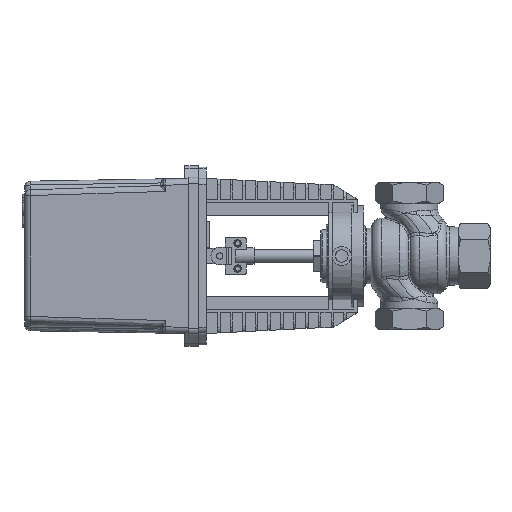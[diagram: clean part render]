
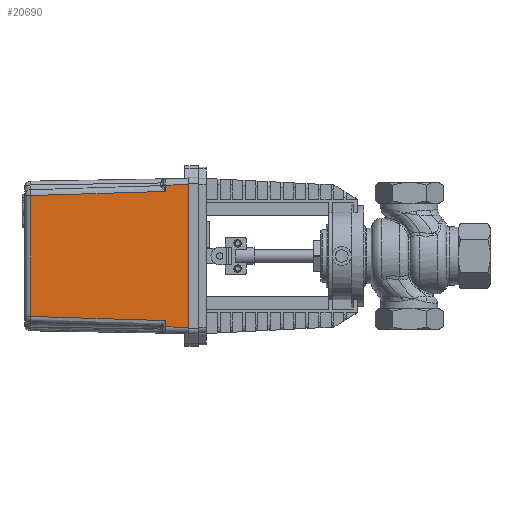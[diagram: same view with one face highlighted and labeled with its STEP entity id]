
A CAD part, left-side view. The second image highlights one B-rep face of the part: STEP entity #20690.
In plain terms, the highlighted planar face has unit normal (-1, 0.018, 0).
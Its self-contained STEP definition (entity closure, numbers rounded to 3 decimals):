
#917=B_SPLINE_CURVE_WITH_KNOTS('',3,(#38635,#38636,#38637,#38638),
 .UNSPECIFIED.,.F.,.F.,(4,4),(11.498,11.695),
 .UNSPECIFIED.);
#918=B_SPLINE_CURVE_WITH_KNOTS('',3,(#38639,#38640,#38641,#38642),
 .UNSPECIFIED.,.F.,.F.,(4,4),(-11.498,-0.983),
 .UNSPECIFIED.);
#921=B_SPLINE_CURVE_WITH_KNOTS('',3,(#38685,#38686,#38687,#38688),
 .UNSPECIFIED.,.F.,.F.,(4,4),(-13.025,-2.51),
 .UNSPECIFIED.);
#922=B_SPLINE_CURVE_WITH_KNOTS('',3,(#38689,#38690,#38691,#38692),
 .UNSPECIFIED.,.F.,.F.,(4,4),(2.314,2.51),
 .UNSPECIFIED.);
#1352=PLANE('',#22194);
#2460=FACE_OUTER_BOUND('',#3610,.T.);
#3610=EDGE_LOOP('',(#16822,#16823,#16824,#16825,#16826,#16827,#16828,#16829,
#16830,#16831));
#5085=LINE('',#37151,#6788);
#5092=LINE('',#38076,#6795);
#5160=LINE('',#38354,#6863);
#5213=LINE('',#38659,#6916);
#5214=LINE('',#38866,#6917);
#5215=LINE('',#38867,#6918);
#6788=VECTOR('',#25541,10.);
#6795=VECTOR('',#25648,10.);
#6863=VECTOR('',#25858,10.);
#6916=VECTOR('',#25973,10.);
#6917=VECTOR('',#26024,10.);
#6918=VECTOR('',#26025,10.);
#9327=VERTEX_POINT('',#36936);
#9339=VERTEX_POINT('',#37149);
#9385=VERTEX_POINT('',#37989);
#9388=VERTEX_POINT('',#38072);
#9483=VERTEX_POINT('',#38353);
#9560=VERTEX_POINT('',#38611);
#9561=VERTEX_POINT('',#38634);
#9564=VERTEX_POINT('',#38655);
#9565=VERTEX_POINT('',#38684);
#9569=VERTEX_POINT('',#38865);
#11854=EDGE_CURVE('',#9339,#9327,#5085,.T.);
#11936=EDGE_CURVE('',#9385,#9388,#5092,.T.);
#12054=EDGE_CURVE('',#9388,#9483,#5160,.T.);
#12147=EDGE_CURVE('',#9561,#9327,#917,.T.);
#12148=EDGE_CURVE('',#9561,#9560,#918,.T.);
#12156=EDGE_CURVE('',#9560,#9564,#5213,.T.);
#12158=EDGE_CURVE('',#9564,#9565,#921,.T.);
#12159=EDGE_CURVE('',#9385,#9565,#922,.T.);
#12179=EDGE_CURVE('',#9569,#9339,#5214,.T.);
#12180=EDGE_CURVE('',#9483,#9569,#5215,.T.);
#16822=ORIENTED_EDGE('',*,*,#11854,.F.);
#16823=ORIENTED_EDGE('',*,*,#12179,.F.);
#16824=ORIENTED_EDGE('',*,*,#12180,.F.);
#16825=ORIENTED_EDGE('',*,*,#12054,.F.);
#16826=ORIENTED_EDGE('',*,*,#11936,.F.);
#16827=ORIENTED_EDGE('',*,*,#12159,.T.);
#16828=ORIENTED_EDGE('',*,*,#12158,.F.);
#16829=ORIENTED_EDGE('',*,*,#12156,.F.);
#16830=ORIENTED_EDGE('',*,*,#12148,.F.);
#16831=ORIENTED_EDGE('',*,*,#12147,.T.);
#20690=ADVANCED_FACE('',(#2460),#1352,.T.);
#22194=AXIS2_PLACEMENT_3D('',#38864,#26022,#26023);
#25541=DIRECTION('',(0.,0.,1.));
#25648=DIRECTION('',(0.,0.,1.));
#25858=DIRECTION('',(-0.017,-1.,0.017));
#25973=DIRECTION('',(0.,0.,1.));
#26022=DIRECTION('center_axis',(-1.,0.017,0.));
#26023=DIRECTION('ref_axis',(0.,0.,
1.));
#26024=DIRECTION('',(0.017,1.,0.017));
#26025=DIRECTION('',(0.,0.,-1.));
#36936=CARTESIAN_POINT('',(-61.185,193.035,-51.199));
#37149=CARTESIAN_POINT('',(-61.185,193.035,-56.186));
#37151=CARTESIAN_POINT('',(-61.185,193.035,1.135));
#37989=CARTESIAN_POINT('',(-61.185,193.035,51.199));
#38072=CARTESIAN_POINT('',(-61.185,193.035,56.186));
#38076=CARTESIAN_POINT('',(-61.185,193.035,60.365));
#38353=CARTESIAN_POINT('',(-61.5,175.,56.501));
#38354=CARTESIAN_POINT('',(-61.483,175.986,56.484));
#38611=CARTESIAN_POINT('',(-59.317,300.087,-47.924));
#38634=CARTESIAN_POINT('',(-61.151,195.,-51.138));
#38635=CARTESIAN_POINT('Ctrl Pts',(-61.151,195.,-51.138));
#38636=CARTESIAN_POINT('Ctrl Pts',(-61.162,194.345,-51.158));
#38637=CARTESIAN_POINT('Ctrl Pts',(-61.174,193.69,-51.178));
#38638=CARTESIAN_POINT('Ctrl Pts',(-61.185,193.035,-51.199));
#38639=CARTESIAN_POINT('Ctrl Pts',(-61.151,195.,-51.138));
#38640=CARTESIAN_POINT('Ctrl Pts',(-60.539,230.029,-50.062));
#38641=CARTESIAN_POINT('Ctrl Pts',(-59.928,265.058,-48.992));
#38642=CARTESIAN_POINT('Ctrl Pts',(-59.317,300.087,-47.924));
#38655=CARTESIAN_POINT('',(-59.317,300.087,47.924));
#38659=CARTESIAN_POINT('',(-59.317,300.087,30.75));
#38684=CARTESIAN_POINT('',(-61.151,195.,51.138));
#38685=CARTESIAN_POINT('Ctrl Pts',(-59.317,300.087,47.924));
#38686=CARTESIAN_POINT('Ctrl Pts',(-59.928,265.058,48.992));
#38687=CARTESIAN_POINT('Ctrl Pts',(-60.539,230.029,50.062));
#38688=CARTESIAN_POINT('Ctrl Pts',(-61.151,195.,51.138));
#38689=CARTESIAN_POINT('Ctrl Pts',(-61.185,193.035,51.199));
#38690=CARTESIAN_POINT('Ctrl Pts',(-61.174,193.69,51.178));
#38691=CARTESIAN_POINT('Ctrl Pts',(-61.162,194.345,51.158));
#38692=CARTESIAN_POINT('Ctrl Pts',(-61.151,195.,51.138));
#38864=CARTESIAN_POINT('Origin',(-61.5,175.,61.5));
#38865=CARTESIAN_POINT('',(-61.5,175.,-56.501));
#38866=CARTESIAN_POINT('',(-61.483,175.986,-56.484));
#38867=CARTESIAN_POINT('',(-61.5,175.,30.75));
